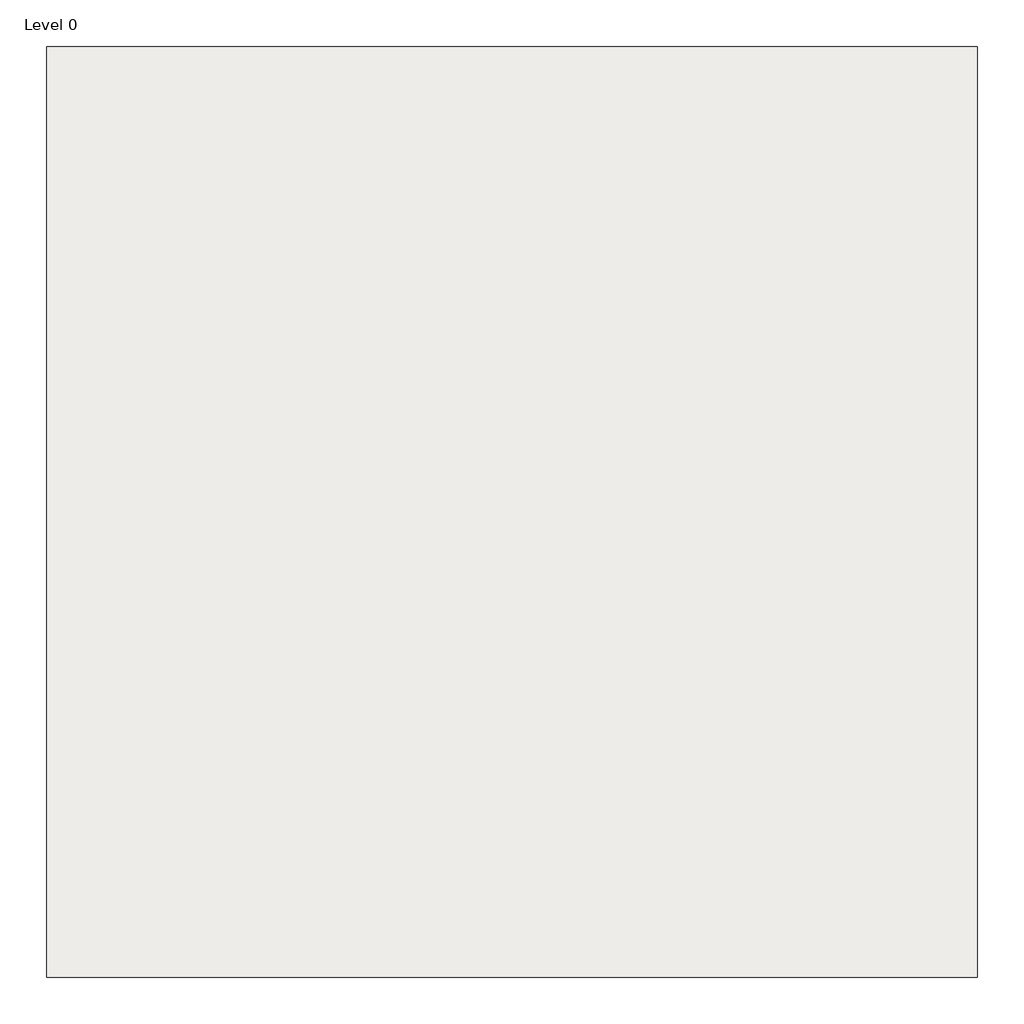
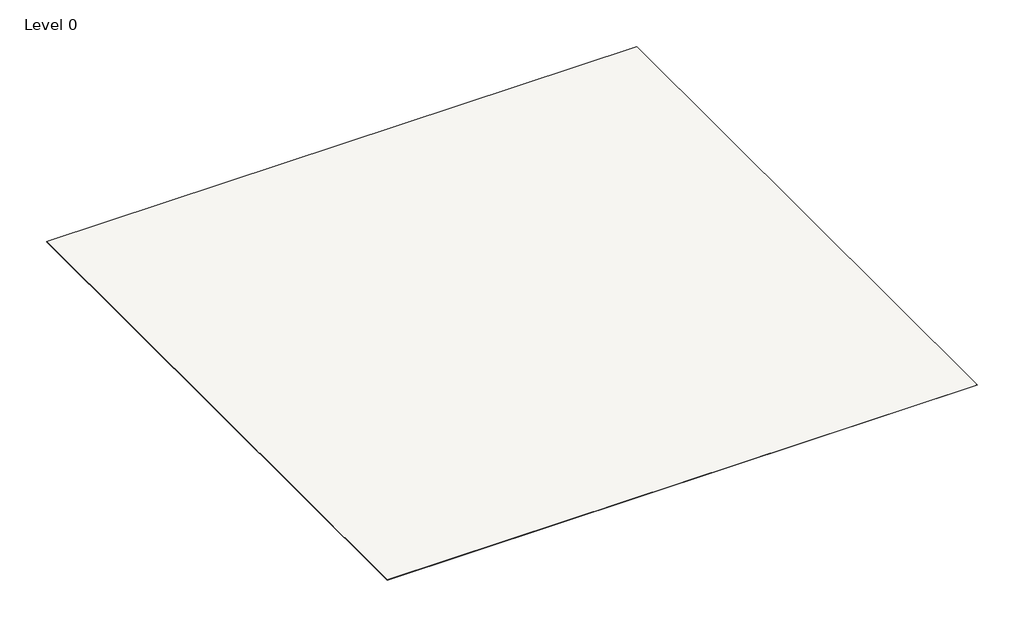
# One storey: 1 covering.
"""IFC4 building model written with IfcOpenShell, lengths in millimetres."""

from ifc_helpers import new_model, si_unit, origin, origin_with_axes, place, context, project, spatial, polyline, outline, extrude, element, save

model = new_model("IFC4")

# Units and contexts
model_context = context("Model", 3, world=origin())
ifc_project = project(units=[si_unit("LENGTHUNIT", "METRE", prefix="MILLI")], contexts=[model_context])

# Site, building, storey
site = spatial("IfcSite", under=ifc_project)
building = spatial("IfcBuilding", under=site)
storey = spatial("IfcBuildingStorey", under=building, Name="Level 0", Elevation=0.0)

# Covering
placement = place(None, origin())
element("IfcCovering", 1, ObjectType="NBS_DeltaMembranes_PlasticsSheets_DELTA-GasBarrierSystem", at=placement, inside=storey, context=model_context, shape_type="SweptSolid", body=[
    extrude(outline(polyline([(2258.592582, 3600.012889), (2258.592582, 6100.012889), (4758.592582, 6100.012889), (4758.592582, 3600.012889), (2258.592582, 3600.012889)])), origin_with_axes(), (0.0, 0.0, 1.0), 0.8),
])

save(model, "model.ifc")
